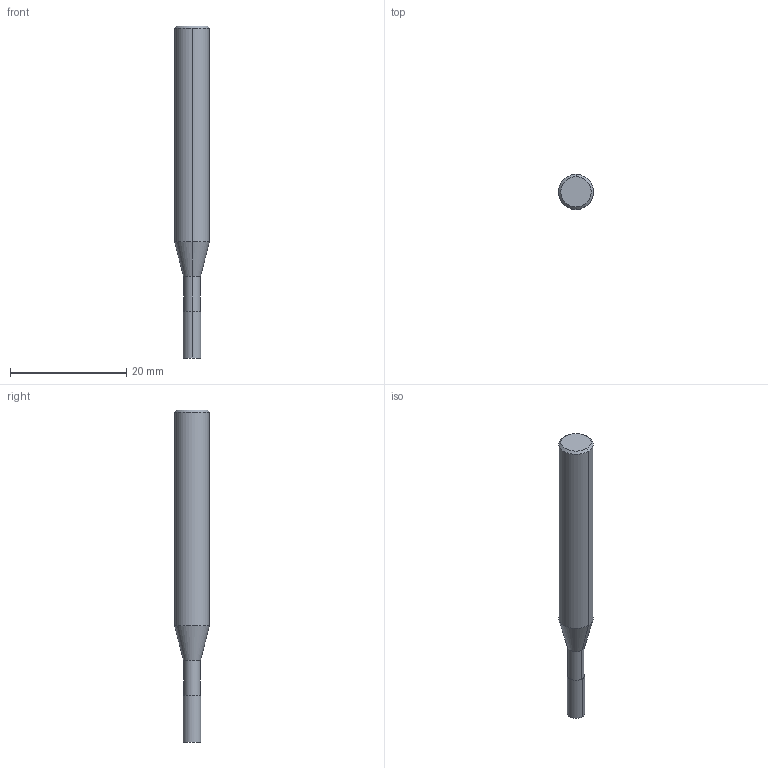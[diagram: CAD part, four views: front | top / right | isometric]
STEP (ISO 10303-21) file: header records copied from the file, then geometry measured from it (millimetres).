
FILE_DESCRIPTION((''),'2;1');
FILE_NAME('DIN4003_82_HEURO','2016-06-28T',('automc'),(''),'PRO/ENGINEER BY PARAMETRIC TECHNOLOGY CORPORATION, 2015280','PRO/ENGINEER BY PARAMETRIC TECHNOLOGY CORPORATION, 2015280','');
FILE_SCHEMA(('AUTOMOTIVE_DESIGN { 1 0 10303 214 1 1 1 1 }'));
Length unit declared in the file: millimetre
Products named in the file (1): DIN4003_82_HEURO
Bounding box: 6 x 6 x 57 mm (x, y, z)
Volume: 1238 mm3; surface area: 945.3 mm2
Topology: 1 solids, 1 shells, 13 faces, 26 edges, 17 vertices
Faces by surface type: bspline 13
Entity records: 750 total; most frequent: CARTESIAN_POINT 251, DIRECTION 69, ORIENTED_EDGE 48, AXIS2_PLACEMENT_3D 26, EDGE_CURVE 24, PRESENTATION_STYLE_ASSIGNMENT 23, STYLED_ITEM 23, VECTOR 17
